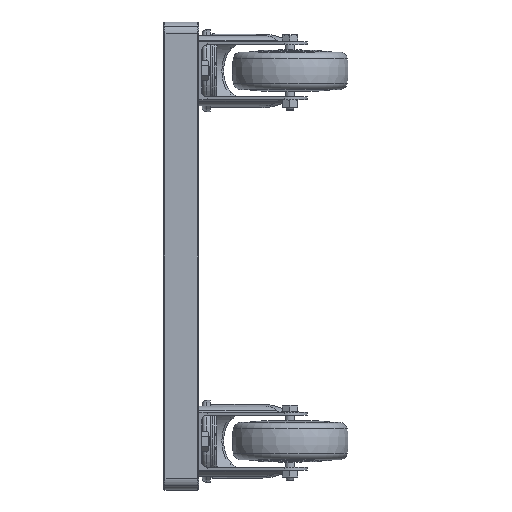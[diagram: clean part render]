
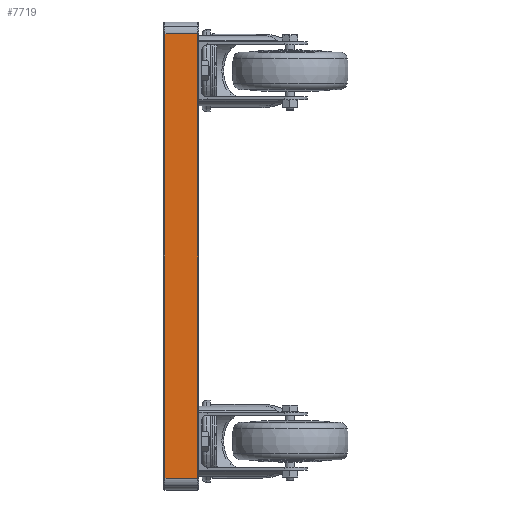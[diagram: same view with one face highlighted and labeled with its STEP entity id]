
A CAD part, left-side view. The second image highlights one B-rep face of the part: STEP entity #7719.
In plain terms, the highlighted planar face has unit normal (-1, 0, 0).
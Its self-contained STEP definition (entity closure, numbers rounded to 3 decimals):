
#1063=ORIENTED_EDGE('',*,*,#3234,.F.);
#1064=ORIENTED_EDGE('',*,*,#3235,.T.);
#1065=ORIENTED_EDGE('',*,*,#3230,.T.);
#1066=ORIENTED_EDGE('',*,*,#3236,.T.);
#3230=EDGE_CURVE('',#4298,#4299,#5056,.T.);
#3234=EDGE_CURVE('',#4302,#4303,#5058,.T.);
#3235=EDGE_CURVE('',#4302,#4298,#5059,.F.);
#3236=EDGE_CURVE('',#4299,#4303,#5060,.T.);
#4298=VERTEX_POINT('',#13085);
#4299=VERTEX_POINT('',#13086);
#4302=VERTEX_POINT('',#13094);
#4303=VERTEX_POINT('',#13095);
#5056=LINE('',#13084,#5786);
#5058=LINE('',#13093,#5788);
#5059=LINE('',#13096,#5789);
#5060=LINE('',#13097,#5790);
#5786=VECTOR('',#10545,1000.);
#5788=VECTOR('',#10553,1000.);
#5789=VECTOR('',#10554,1000.);
#5790=VECTOR('',#10555,1000.);
#6233=EDGE_LOOP('',(#1063,#1064,#1065,#1066));
#6847=FACE_BOUND('',#6233,.T.);
#7417=PLANE('',#9359);
#7719=ADVANCED_FACE('',(#6847),#7417,.F.);
#9359=AXIS2_PLACEMENT_3D('',#13092,#10551,#10552);
#10545=DIRECTION('',(0.,-1.,0.));
#10551=DIRECTION('',(1.,0.,0.));
#10552=DIRECTION('',(0.,0.,-1.));
#10553=DIRECTION('',(0.,-1.,0.));
#10554=DIRECTION('',(0.,0.,1.));
#10555=DIRECTION('',(0.,0.,1.));
#13084=CARTESIAN_POINT('',(-300.,30.,-190.));
#13085=CARTESIAN_POINT('',(-300.,29.,-190.));
#13086=CARTESIAN_POINT('',(-300.,1.,-190.));
#13092=CARTESIAN_POINT('',(-300.,30.,-190.));
#13093=CARTESIAN_POINT('',(-300.,30.,190.));
#13094=CARTESIAN_POINT('',(-300.,29.,190.));
#13095=CARTESIAN_POINT('',(-300.,1.,190.));
#13096=CARTESIAN_POINT('',(-300.,29.,-190.));
#13097=CARTESIAN_POINT('',(-300.,1.,-190.));
